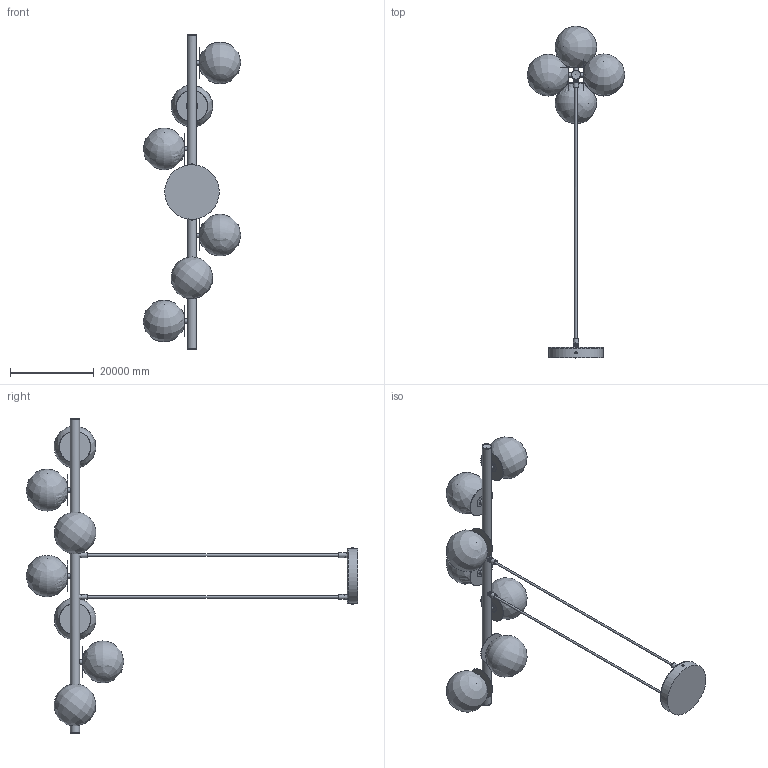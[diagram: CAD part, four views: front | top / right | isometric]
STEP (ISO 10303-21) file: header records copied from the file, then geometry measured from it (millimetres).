
FILE_DESCRIPTION ((), '1');
FILE_NAME ('G:\_Liczy się słowo\_Modelowanie SIGMA\Avola\Avola\AVOLA.stp', '2024-09-02T10:16:56', ('Unknown'), ('Unknown'), 'HarmonyWare STEP v2.1.4', 'HarmonyWare Translators', '');
FILE_SCHEMA (('CONFIG_CONTROL_DESIGN'));
Length unit declared in the file: metre
Products named in the file (263): Rurka; rdzeń; LED; klosz 10cm; baza; klosz LED; podkloszówka; mocowanie przewodu; ISO7380 Hexagon socket button head screw Lustro; ISO7380 Hexagon socket button head screw; przewód; podsufitka 130
Assembly tree (262 placements, depth 2):
  (unnamed)
    Rurka
    rdzeń
    LED
    LED
    LED
    LED
    LED
    LED
    LED
    LED
    LED
    LED
    LED
    klosz 10cm
    baza
    LED
    LED
    LED
    LED
    LED
    LED
    LED
    LED
    LED
    LED
    LED
    LED
    LED
    LED
    LED
    klosz LED
    klosz 10cm
    podkloszówka
    baza
    LED
    LED
    LED
    LED
    LED
    LED
    LED
    LED
    LED
    LED
    LED
    LED
    LED
    LED
    klosz 10cm
    mocowanie przewodu
    mocowanie przewodu
    ISO7380 Hexagon socket button head screw Lustro
    LED
    LED
    LED
    LED
    LED
    LED
    LED
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Bounding box: 23340 x 79170 x 75000 mm (x, y, z)
Volume: 773119673097.9 mm3; surface area: 7470281499.8 mm2
Topology: 262 solids, 262 shells, 10155 faces, 25024 edges, 14237 vertices
Faces by surface type: bspline 10155
Entity records: 576536 total; most frequent: CARTESIAN_POINT 409022, ORIENTED_EDGE 47630, EDGE_CURVE 23815, VERTEX_POINT 14237, B_SPLINE_CURVE_WITH_KNOTS 11636, EDGE_LOOP 10226, FACE_OUTER_BOUND 10153, ADVANCED_FACE 10153
